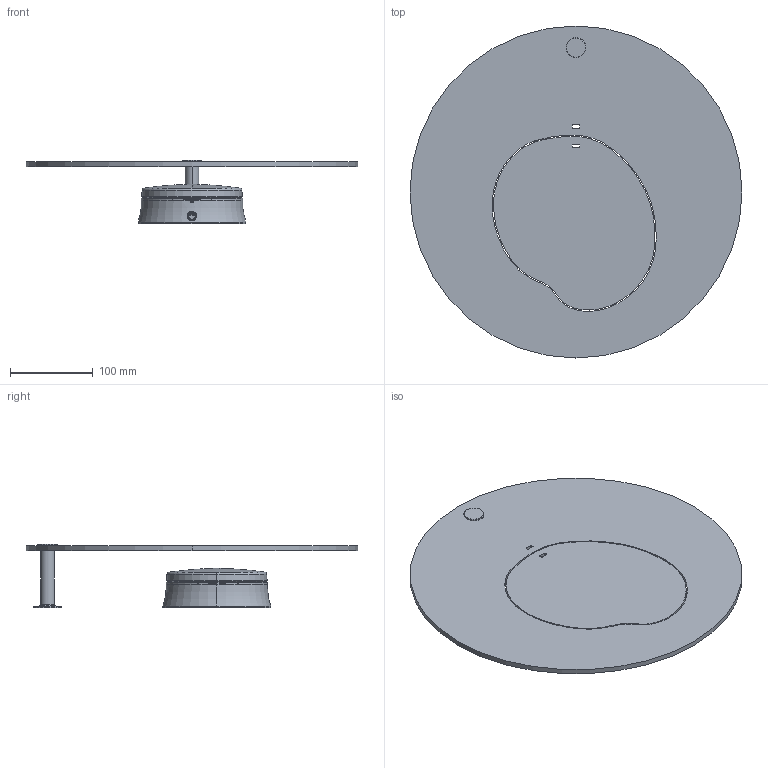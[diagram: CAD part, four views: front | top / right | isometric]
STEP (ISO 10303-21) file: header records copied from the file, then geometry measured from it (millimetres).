
FILE_DESCRIPTION (( 'STEP AP214' ), '1' );
FILE_NAME ('306_MEDIA_W_LD_3D.STEP', '2021-05-24T13:02:57', ( '' ), ( '' ), 'SwSTEP 2.0', 'SolidWorks 2021', '' );
FILE_SCHEMA (( 'AUTOMOTIVE_DESIGN' ));
Length unit declared in the file: millimetre
Products named in the file (1): 306_MEDIA_W_LD_3D
Bounding box: 400 x 400 x 77 mm (x, y, z)
Volume: 988268.5 mm3; surface area: 359306.6 mm2
Topology: 6 solids, 6 shells, 205 faces, 476 edges, 287 vertices
Faces by surface type: cylinder 80, cone 47, torus 37, plane 33, bspline 8
Entity records: 9521 total; most frequent: CARTESIAN_POINT 2391, DIRECTION 1080, ORIENTED_EDGE 936, EDGE_CURVE 468, AXIS2_PLACEMENT_3D 463, VERTEX_POINT 287, CIRCLE 265, EDGE_LOOP 255
